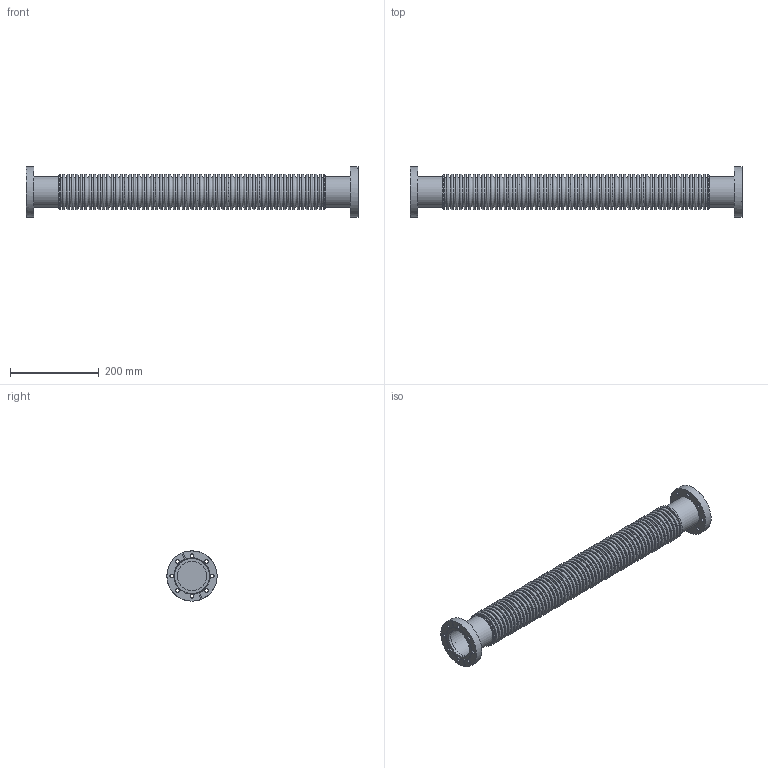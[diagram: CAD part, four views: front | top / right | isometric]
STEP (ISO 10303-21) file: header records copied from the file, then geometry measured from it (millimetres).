
FILE_DESCRIPTION( ( 'Unknown' ), '1' );
FILE_NAME( 'X:/Daten ( aktueller Bestand )/Projekte und Zeichnungen/Solid Edge/STP-Dateien/CF-Teile/7933RU4.stp', 'Unknown', ( 'Unknown' ), ( 'Unknown' ), 'PSStep 14.0', 'Unknown', ' ' );
FILE_SCHEMA( ( 'AUTOMOTIVE_DESIGN { 1 0 10303 214 1 1 1 1 }' ) );
Length unit declared in the file: millimetre
Products named in the file (7): 7513R; 7513R-1; 7513R-2; Assem1; 7903R-1; 7513F; 7933R-2
Assembly tree (7 placements, depth 3):
  Assem1
    7903R-1  x2
    7513F
    7933R-2
    7513R
      7513R-1
      7513R-2
Bounding box: 750 x 113.5 x 113.5 mm (x, y, z)
Volume: 2759199.8 mm3; surface area: 415083.4 mm2
Topology: 6 solids, 6 shells, 301 faces, 494 edges, 329 vertices
Faces by surface type: plane 140, torus 121, cylinder 36, cone 4
Full cylindrical faces by diameter (mm): 8.4 x16, 66 x4, 70 x2, 70.3 x2, 72 x1, 74 x2, 82 x1, 82.3 x1, 82.5 x1, 113.5 x2
Entity records: 8818 total; most frequent: DIRECTION 1234, CARTESIAN_POINT 1050, ORIENTED_EDGE 650, AXIS2_PLACEMENT_3D 613, EDGE_LOOP 612, FACE_OUTER_BOUND 445, EDGE_CURVE 325, VERTEX_POINT 317
